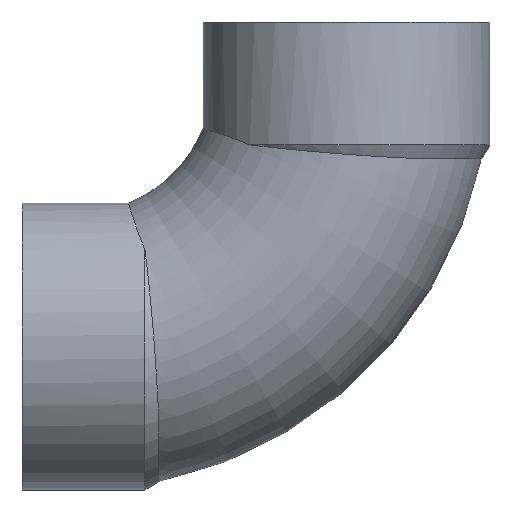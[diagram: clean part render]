
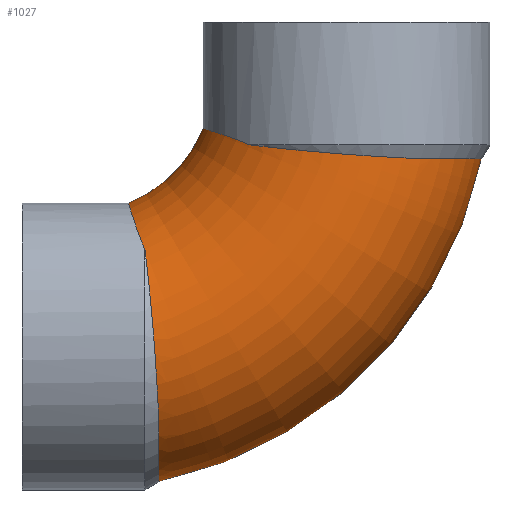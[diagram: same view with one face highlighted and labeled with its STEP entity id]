
A CAD part, top view. The second image highlights one B-rep face of the part: STEP entity #1027.
In plain terms, the highlighted toroidal (fillet/blend) face has major radius 108 mm and minor radius 54 mm.
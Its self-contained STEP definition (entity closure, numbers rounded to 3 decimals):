
#163=CARTESIAN_POINT('',(32.5,-158.706,0.));
#164=VERTEX_POINT('',#163);
#165=CARTESIAN_POINT('',(158.706,-32.5,0.));
#166=VERTEX_POINT('',#165);
#167=CARTESIAN_POINT('',(0.0,0.0,0.));
#168=DIRECTION('',(0.0,0.0,1.0));
#169=DIRECTION('',(1.0,0.0,0.0));
#170=AXIS2_PLACEMENT_3D('',#167,#168,#169);
#171=CIRCLE('',#170,162.0);
#172=EDGE_CURVE('',#164,#166,#171,.T.);
#206=CARTESIAN_POINT('',(20.64,-49.9,0.));
#207=VERTEX_POINT('',#206);
#221=CARTESIAN_POINT('',(49.9,-20.64,0.));
#222=VERTEX_POINT('',#221);
#223=CARTESIAN_POINT('',(0.0,0.0,0.));
#224=DIRECTION('',(0.0,0.0,-1.0));
#225=DIRECTION('',(1.0,0.0,0.0));
#226=AXIS2_PLACEMENT_3D('',#223,#224,#225);
#227=CIRCLE('',#226,54.0);
#228=EDGE_CURVE('',#222,#207,#227,.T.);
#293=CARTESIAN_POINT('',(32.5,-135.003,44.313));
#294=VERTEX_POINT('',#293);
#302=CARTESIAN_POINT('',(27.063,-68.077,41.341));
#303=VERTEX_POINT('',#302);
#304=CARTESIAN_POINT('',(27.063,-68.077,41.341));
#305=CARTESIAN_POINT('',(27.559,-72.057,44.603));
#306=CARTESIAN_POINT('',(28.07,-76.475,47.297));
#307=CARTESIAN_POINT('',(29.118,-86.43,51.623));
#308=CARTESIAN_POINT('',(29.646,-91.987,53.088));
#309=CARTESIAN_POINT('',(30.681,-104.23,54.382));
#310=CARTESIAN_POINT('',(31.166,-110.87,53.916));
#311=CARTESIAN_POINT('',(31.962,-123.605,50.7));
#312=CARTESIAN_POINT('',(32.269,-129.61,48.002));
#313=CARTESIAN_POINT('',(32.5,-135.003,44.313));
#314=B_SPLINE_CURVE_WITH_KNOTS('',3,(#304,#305,#306,#307,#308,#309,#310,#311,#312,#313),.UNSPECIFIED.,.F.,.U.,(4,2,2,2,4),(-7.217,-5.666,-3.947,-1.961,0.0),.UNSPECIFIED.);
#315=EDGE_CURVE('',#303,#294,#314,.T.);
#614=CARTESIAN_POINT('',(20.64,-49.9,0.));
#615=CARTESIAN_POINT('',(20.64,-49.9,1.576));
#616=CARTESIAN_POINT('',(20.659,-49.966,3.153));
#617=CARTESIAN_POINT('',(20.878,-50.693,11.74));
#618=CARTESIAN_POINT('',(21.441,-52.603,18.56));
#619=CARTESIAN_POINT('',(23.028,-57.484,28.462));
#620=CARTESIAN_POINT('',(23.761,-59.671,31.889));
#621=CARTESIAN_POINT('',(25.364,-63.996,37.302));
#622=CARTESIAN_POINT('',(26.141,-65.98,39.417));
#623=CARTESIAN_POINT('',(27.063,-68.077,41.341));
#624=B_SPLINE_CURVE_WITH_KNOTS('',3,(#614,#615,#616,#617,#618,#619,#620,#621,#622,#623),.UNSPECIFIED.,.F.,.U.,(4,2,2,2,4),(-4.704,-4.231,-2.129,-0.897,0.0),.UNSPECIFIED.);
#625=EDGE_CURVE('',#207,#303,#624,.T.);
#847=CARTESIAN_POINT('',(68.077,-27.063,41.341));
#848=VERTEX_POINT('',#847);
#849=CARTESIAN_POINT('',(68.077,-27.063,41.341));
#850=CARTESIAN_POINT('',(66.99,-26.585,40.344));
#851=CARTESIAN_POINT('',(65.933,-26.147,39.295));
#852=CARTESIAN_POINT('',(61.485,-24.375,34.511));
#853=CARTESIAN_POINT('',(58.503,-23.366,30.3));
#854=CARTESIAN_POINT('',(54.316,-21.994,22.174));
#855=CARTESIAN_POINT('',(52.871,-21.546,18.451));
#856=CARTESIAN_POINT('',(50.55,-20.832,9.838));
#857=CARTESIAN_POINT('',(49.9,-20.64,4.927));
#858=CARTESIAN_POINT('',(49.9,-20.64,0.));
#859=B_SPLINE_CURVE_WITH_KNOTS('',3,(#849,#850,#851,#852,#853,#854,#855,#856,#857,#858),.UNSPECIFIED.,.F.,.U.,(4,2,2,2,4),(-9.408,-8.943,-7.377,-6.181,-4.704),.UNSPECIFIED.);
#860=EDGE_CURVE('',#848,#222,#859,.T.);
#933=CARTESIAN_POINT('',(135.003,-32.5,44.313));
#934=VERTEX_POINT('',#933);
#935=CARTESIAN_POINT('',(135.003,-32.5,44.313));
#936=CARTESIAN_POINT('',(130.914,-32.325,47.11));
#937=CARTESIAN_POINT('',(126.468,-32.106,49.341));
#938=CARTESIAN_POINT('',(117.697,-31.601,52.363));
#939=CARTESIAN_POINT('',(113.458,-31.33,53.291));
#940=CARTESIAN_POINT('',(101.886,-30.502,54.449));
#941=CARTESIAN_POINT('',(94.543,-29.887,53.747));
#942=CARTESIAN_POINT('',(80.439,-28.52,49.549));
#943=CARTESIAN_POINT('',(73.811,-27.778,46.041));
#944=CARTESIAN_POINT('',(68.077,-27.063,41.341));
#945=B_SPLINE_CURVE_WITH_KNOTS('',3,(#935,#936,#937,#938,#939,#940,#941,#942,#943,#944),.UNSPECIFIED.,.F.,.U.,(4,2,2,2,4),(-7.218,-5.731,-4.432,-2.235,0.0),.UNSPECIFIED.);
#946=EDGE_CURVE('',#934,#848,#945,.T.);
#980=CARTESIAN_POINT('',(158.706,-32.5,0.));
#981=CARTESIAN_POINT('',(158.706,-32.5,3.303));
#982=CARTESIAN_POINT('',(158.377,-32.5,6.91));
#983=CARTESIAN_POINT('',(156.956,-32.5,13.97));
#984=CARTESIAN_POINT('',(155.865,-32.5,17.424));
#985=CARTESIAN_POINT('',(153.301,-32.5,23.55));
#986=CARTESIAN_POINT('',(151.585,-32.5,26.783));
#987=CARTESIAN_POINT('',(147.504,-32.5,32.81));
#988=CARTESIAN_POINT('',(145.14,-32.5,35.604));
#989=CARTESIAN_POINT('',(140.512,-32.5,40.173));
#990=CARTESIAN_POINT('',(137.86,-32.5,42.379));
#991=CARTESIAN_POINT('',(135.003,-32.5,44.313));
#992=B_SPLINE_CURVE_WITH_KNOTS('',3,(#980,#981,#982,#983,#984,#985,#986,#987,#988,#989,#990,#991),.UNSPECIFIED.,.F.,.U.,(4,2,2,2,2,4),(0.0,0.991,1.982,2.983,3.985,4.934),.UNSPECIFIED.);
#993=EDGE_CURVE('',#166,#934,#992,.T.);
#998=CARTESIAN_POINT('',(0.0,0.0,0.0));
#999=DIRECTION('',(0.0,0.0,1.0));
#1000=DIRECTION('',(1.0,0.0,0.0));
#1001=AXIS2_PLACEMENT_3D('',#998,#999,#1000);
#1002=TOROIDAL_SURFACE('',#1001,108.0,54.0);
#1003=ORIENTED_EDGE('',*,*,#172,.T.);
#1004=ORIENTED_EDGE('',*,*,#993,.T.);
#1005=ORIENTED_EDGE('',*,*,#946,.T.);
#1006=ORIENTED_EDGE('',*,*,#860,.T.);
#1007=ORIENTED_EDGE('',*,*,#228,.T.);
#1008=ORIENTED_EDGE('',*,*,#625,.T.);
#1009=ORIENTED_EDGE('',*,*,#315,.T.);
#1010=CARTESIAN_POINT('',(32.5,-135.003,44.313));
#1011=CARTESIAN_POINT('',(32.5,-137.86,42.379));
#1012=CARTESIAN_POINT('',(32.5,-140.512,40.173));
#1013=CARTESIAN_POINT('',(32.5,-145.14,35.604));
#1014=CARTESIAN_POINT('',(32.5,-147.504,32.81));
#1015=CARTESIAN_POINT('',(32.5,-151.585,26.783));
#1016=CARTESIAN_POINT('',(32.5,-153.301,23.55));
#1017=CARTESIAN_POINT('',(32.5,-155.865,17.424));
#1018=CARTESIAN_POINT('',(32.5,-156.956,13.97));
#1019=CARTESIAN_POINT('',(32.5,-158.377,6.91));
#1020=CARTESIAN_POINT('',(32.5,-158.706,3.303));
#1021=CARTESIAN_POINT('',(32.5,-158.706,0.));
#1022=B_SPLINE_CURVE_WITH_KNOTS('',3,(#1010,#1011,#1012,#1013,#1014,#1015,#1016,#1017,#1018,#1019,#1020,#1021),.UNSPECIFIED.,.F.,.U.,(4,2,2,2,2,4),(-4.934,-3.985,-2.983,-1.982,-0.991,0.0),.UNSPECIFIED.);
#1023=EDGE_CURVE('',#294,#164,#1022,.T.);
#1024=ORIENTED_EDGE('',*,*,#1023,.T.);
#1025=EDGE_LOOP('',(#1003,#1004,#1005,#1006,#1007,#1008,#1009,#1024));
#1026=FACE_OUTER_BOUND('',#1025,.T.);
#1027=ADVANCED_FACE('',(#1026),#1002,.T.);
